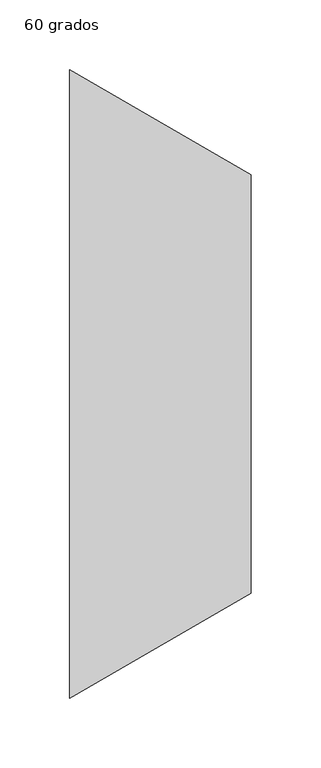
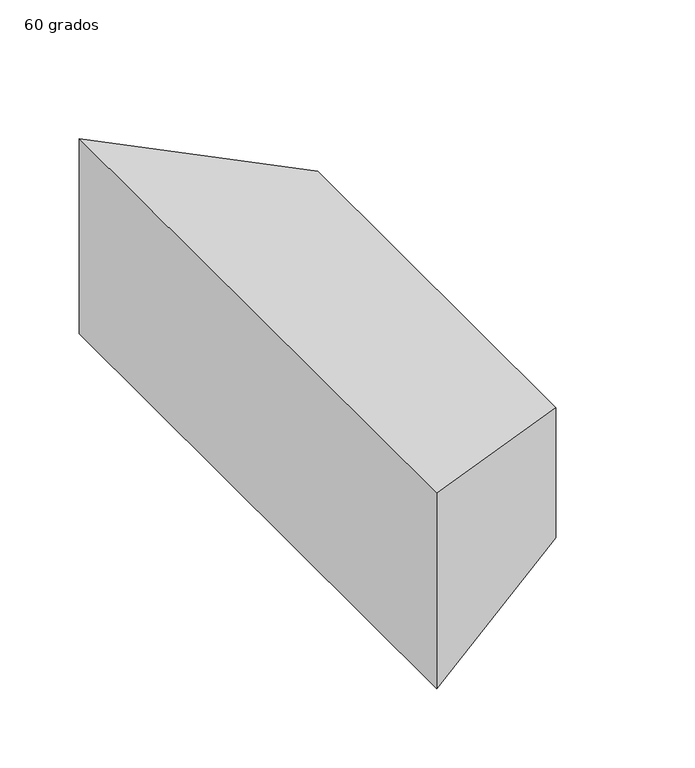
"""IFC4 building model written with IfcOpenShell, lengths in millimetres: duct fitting geometry, M_Transición rectangular - Ángulo : 60 grados."""

from ifc_helpers import new_model, si_unit, origin, place, context, project, spatial, faceted_brep, source, transform, mapped, element, save


def duct_fitting_60_grados_1434c031(model_context):
    return source(origin(), model_context, "Body", "Brep", [
        faceted_brep([(129.9038106, -150.0, 50.0), (129.9038106, -150.0, -50.0), (129.9038106, 150.0, -50.0), (129.9038106, 150.0, 50.0), (0.0, -225.0, 75.0), (0.0, 225.0, 75.0), (0.0, 225.0, -75.0), (0.0, -225.0, -75.0)], [[[0, 1, 2, 3]], [[4, 5, 6, 7]], [[4, 7, 1, 0]], [[7, 6, 2, 1]], [[6, 5, 3, 2]], [[5, 4, 0, 3]]]),
    ])


if __name__ == "__main__":
    model = new_model("IFC4")
    model_context = context("Model", 3, world=origin())
    ifc_project = project(units=[si_unit("LENGTHUNIT", "METRE", prefix="MILLI")], contexts=[model_context])
    site = spatial("IfcSite", under=ifc_project)
    building = spatial("IfcBuilding", under=site)
    placement = place(None, origin())
    duct_fitting_60_grados_shape = duct_fitting_60_grados_1434c031(model_context)
    element("IfcDuctFitting", 1, ObjectType="M_Transición rectangular - Ángulo : 60 grados", at=placement, inside=building, context=model_context, shape_type="MappedRepresentation", body=[
        mapped(duct_fitting_60_grados_shape, transform((0.0, 0.0, 0.0), x_axis=(1.0, 0.0, 0.0), y_axis=(0.0, 1.0, 0.0), z_axis=(0.0, 0.0, 1.0))),
    ])
    save(model, "model.ifc")
